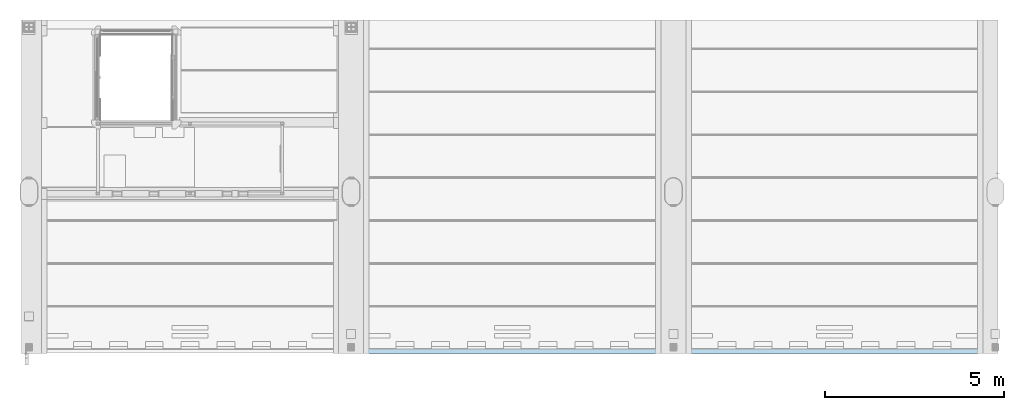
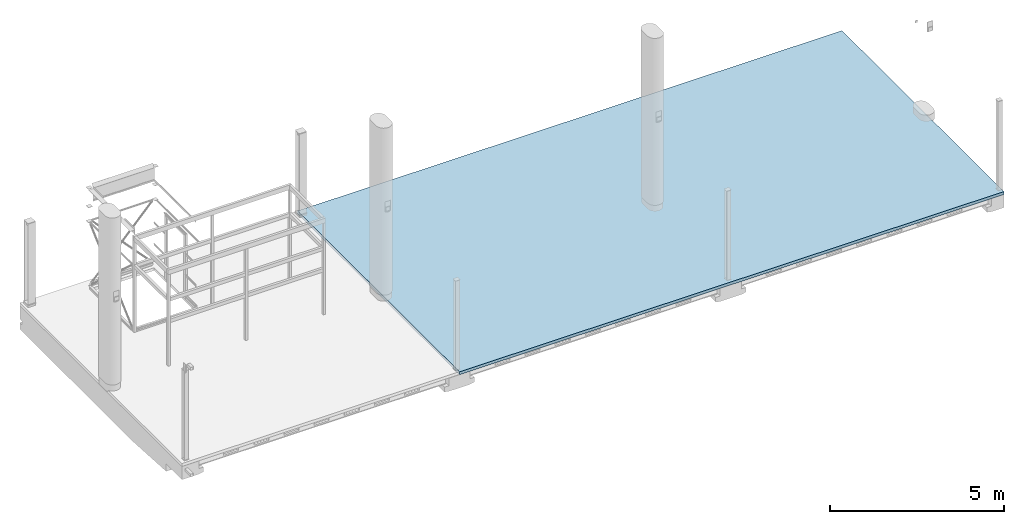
# One storey, part 15 of 15: 1 slab.
"""IFC2X3 building model written with IfcOpenShell, lengths in millimetres."""

from ifc_helpers import new_model, entity, si_unit, converted_unit, derived_unit, direction, frame, origin_with_axes, place, context, subcontext, project, spatial, faceted_brep, type_object, element, save


model = new_model("IFC2X3")

# Units and contexts
model_context = context("Model", 3, precision=0.01, world=frame((0.0, 4.29681676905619e-09, 0.0)), true_north=direction((4.01073788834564e-13, 1.0)))
plan_context = context("Plan", 3, precision=0.01, world=frame((0.0, 4.29681676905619e-09, 0.0)), true_north=direction((4.01073788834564e-13, 1.0)))
body_context = subcontext(model_context, "Body", "Model", "MODEL_VIEW")
ifc_project = project(units=[converted_unit("PLANEANGLEUNIT", "DEGREE", entity("IfcPositiveLengthMeasure", 0.0174532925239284), si_unit("PLANEANGLEUNIT", "RADIAN"), dimensions=[0, 0, 0, 0, 0, 0, 0]), si_unit("AREAUNIT", "SQUARE_METRE"), si_unit("LENGTHUNIT", "METRE", prefix="MILLI"), si_unit("MASSUNIT", "GRAM", prefix="KILO"), si_unit("POWERUNIT", "WATT"), si_unit("PRESSUREUNIT", "PASCAL", prefix="KILO"), si_unit("FORCEUNIT", "NEWTON", prefix="KILO"), si_unit("ELECTRICVOLTAGEUNIT", "VOLT"), si_unit("ELECTRICCURRENTUNIT", "AMPERE"), si_unit("THERMODYNAMICTEMPERATUREUNIT", "DEGREE_CELSIUS"), si_unit("TIMEUNIT", "SECOND"), si_unit("VOLUMEUNIT", "CUBIC_METRE"), derived_unit("LINEARVELOCITYUNIT", [(si_unit("LENGTHUNIT", "METRE"), 1), (si_unit("TIMEUNIT", "SECOND"), -1)]), derived_unit("VOLUMETRICFLOWRATEUNIT", [(si_unit("VOLUMEUNIT", "CUBIC_METRE"), 1), (si_unit("TIMEUNIT", "SECOND"), -1)]), derived_unit("THERMALTRANSMITTANCEUNIT", [(si_unit("POWERUNIT", "WATT"), 1), (si_unit("THERMODYNAMICTEMPERATUREUNIT", "KELVIN"), -1), (si_unit("AREAUNIT", "SQUARE_METRE"), -1)]), derived_unit("SOUNDPRESSUREUNIT", [(si_unit("PRESSUREUNIT", "PASCAL"), 1)])], contexts=[model_context, plan_context])

# Site, building, storey
site_placement = place(None, frame((0.0, -4.29681676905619e-09, 0.0), z_axis=(0.0, 0.0, 1.0), x_axis=(1.0, 0.0, 0.0)))
site = spatial("IfcSite", under=ifc_project, at=site_placement, Name="Gardermoen", CompositionType="ELEMENT")
building_placement = place(site_placement, frame((0.0, 4.29681676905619e-09, 0.0), z_axis=(0.0, 0.0, 1.0), x_axis=(1.0, 0.0, 0.0)))
building = spatial("IfcBuilding", under=site, at=building_placement, Name="TG", CompositionType="ELEMENT")
storey_placement = place(building_placement, origin_with_axes())
storey = spatial("IfcBuildingStorey", under=building, at=storey_placement, Name="F", CompositionType="ELEMENT", Elevation=0.0)

# Slab
slab_type = type_object("IfcSlabType", Name="100*26620", PredefinedType="NOTDEFINED")
slab_placement = place(storey_placement, frame((358000.0, 484809.995625, 210080.0), z_axis=(0.0, -1.0, 0.0), x_axis=(-1.0, 0.0, 0.0)))
element("IfcSlab", 1, at=slab_placement, inside=storey, type_object=slab_type, Name="PÅSTØP", ObjectType="100*26620", PredefinedType="FLOOR", context=body_context, shape_type="Brep", body=[
    faceted_brep([(27000.0, -50.0, 17309.9956250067), (8935.49999999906, -50.0, 17309.9956250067), (8935.49999999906, -50.0, 26620.0), (27000.0, -50.0, 26620.0), (27000.0, 50.0, 17309.9956250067), (27000.0, 50.0, 26620.0), (8935.49999999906, 50.0, 26620.0), (8935.49999999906, 50.0000000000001, 17309.9956250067)], [[[0, 1, 2, 3]], [[4, 0, 3, 5]], [[2, 6, 5, 3]], [[6, 7, 4, 5]], [[7, 6, 2, 1]], [[1, 0, 4, 7]]], orient=[[False], [False], [False], [False], [False], [False]]),
])

save(model, "model.ifc")
